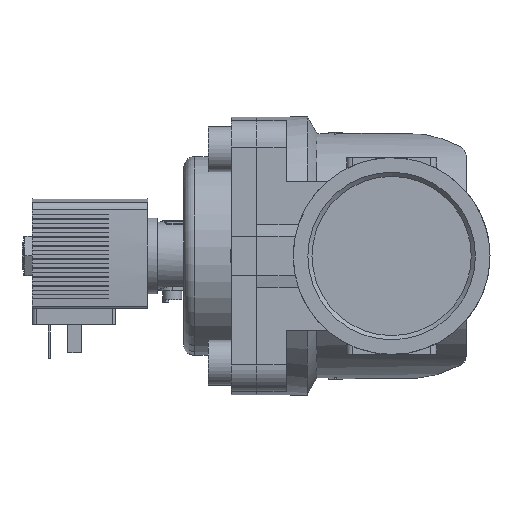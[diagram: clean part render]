
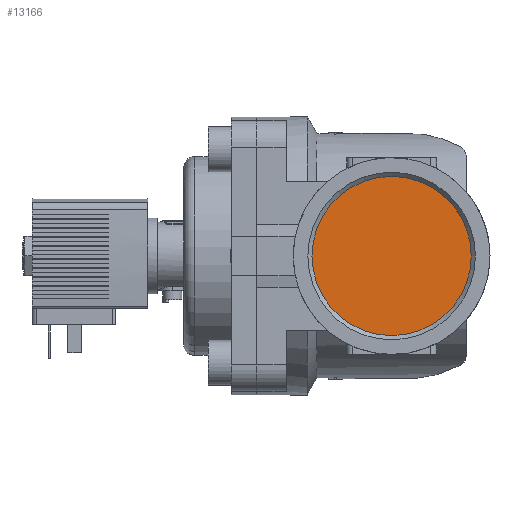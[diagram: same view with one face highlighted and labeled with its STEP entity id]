
A CAD part, left-side view. The second image highlights one B-rep face of the part: STEP entity #13166.
In plain terms, the highlighted planar face has unit normal (-1, 0, 0).
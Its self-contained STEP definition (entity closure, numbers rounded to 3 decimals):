
#3864=ORIENTED_EDGE('',*,*,#6325,.F.);
#6325=EDGE_CURVE('',#7665,#7665,#8421,.T.);
#7665=VERTEX_POINT('',#18913);
#8421=CIRCLE('',#13940,28.328);
#8822=EDGE_LOOP('',(#3864));
#9426=FACE_BOUND('',#8822,.T.);
#9917=PLANE('',#13941);
#13166=ADVANCED_FACE('',(#9426),#9917,.T.);
#13940=AXIS2_PLACEMENT_3D('',#18912,#15678,#15679);
#13941=AXIS2_PLACEMENT_3D('',#18914,#15680,#15681);
#15678=DIRECTION('',(1.,0.,0.));
#15679=DIRECTION('',(0.,1.,0.));
#15680=DIRECTION('',(-1.,0.,0.));
#15681=DIRECTION('',(0.,-1.,0.));
#18912=CARTESIAN_POINT('',(-39.5,0.,0.));
#18913=CARTESIAN_POINT('',(-39.5,28.328,0.));
#18914=CARTESIAN_POINT('',(-39.5,28.328,0.));
